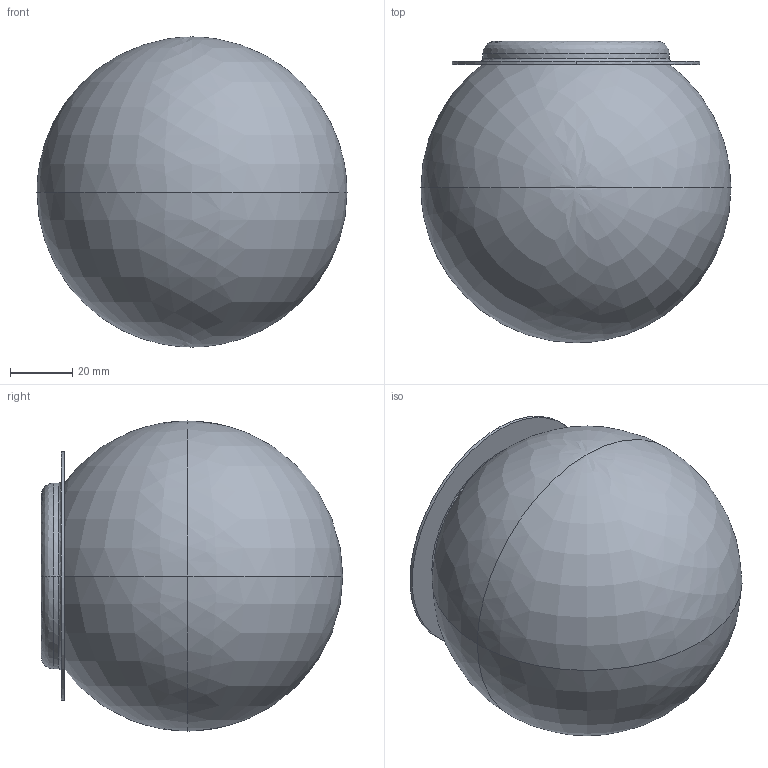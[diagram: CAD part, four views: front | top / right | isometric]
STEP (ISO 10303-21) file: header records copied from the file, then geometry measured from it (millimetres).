
FILE_DESCRIPTION(/* description */ (''),/* implementation_level */ '2;1');
FILE_NAME(/* name */ 'X115__~1',/* time_stamp */ '2024-07-03T10:43:20+02:00',/* author */ (''),/* organization */ (''),/* preprocessor_version */ 'ST-DEVELOPER v16.5',/* originating_system */ '',/* authorisation */ '');
FILE_SCHEMA (('AUTOMOTIVE_DESIGN'));
Length unit declared in the file: millimetre
Products named in the file (1): Document
Bounding box: 100 x 97.26 x 100 mm (x, y, z)
Volume: 96638.9 mm3; surface area: 76195.8 mm2
Topology: 6 solids, 6 shells, 140 faces, 318 edges, 184 vertices
Faces by surface type: bspline 100, plane 40
Entity records: 6722 total; most frequent: CARTESIAN_POINT 4892, ORIENTED_EDGE 608, EDGE_CURVE 304, VERTEX_POINT 184, EDGE_LOOP 160, ADVANCED_FACE 140, FACE_OUTER_BOUND 140, B_SPLINE_CURVE_WITH_KNOTS 114
